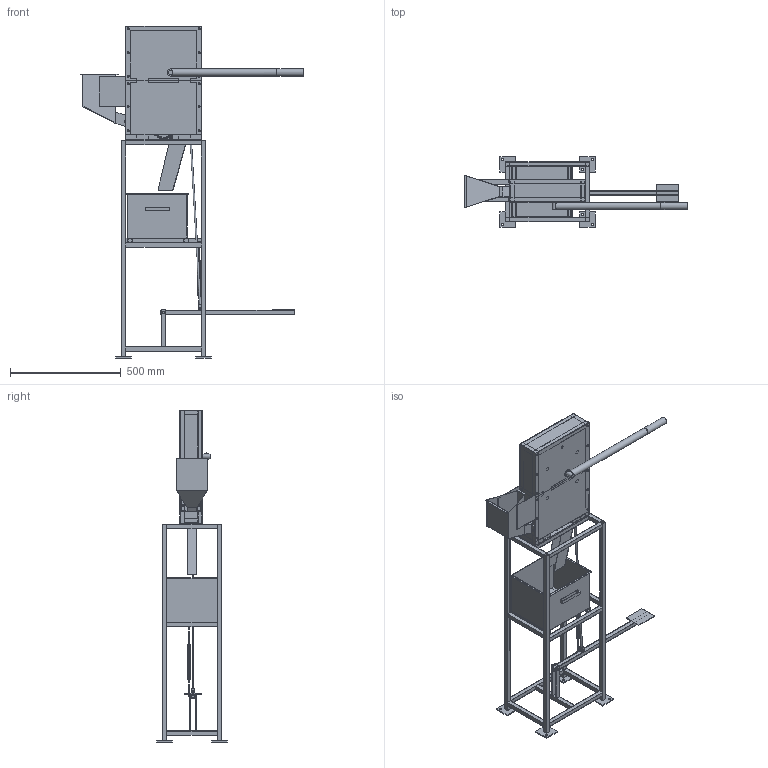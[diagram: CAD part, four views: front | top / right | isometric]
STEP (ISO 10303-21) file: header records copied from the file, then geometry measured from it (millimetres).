
FILE_DESCRIPTION(('FreeCAD Model'),'2;1');
FILE_NAME('Open CASCADE Shape Model','2026-11-21T15:35:46',('Author'),( ''),'Open CASCADE STEP processor 7.9','FreeCAD','Unknown');
FILE_SCHEMA(('AUTOMOTIVE_DESIGN { 1 0 10303 214 1 1 1 1 }'));
Length unit declared in the file: millimetre
Products named in the file (55): prensa_baru_manual_v1; 01_Portico_Soldado_Guia_Metalon_40x40_e_Suporte_Cantoneira; Chapa de Mesa Estrutural 1/4 pol (340x100 mm - Porticos Soldados s/ 
Cantoneiras); Portico Traseiro Soldado (Barra Chata 2x1/4 pol - 4 Furos M8 Guia U); Portico Frontal Soldado (Barra Chata 2x1/4 pol - Y[-40.82,-34.47]); 4x Espacadores Tubulares c/ Parafusos M10 Cl. 8.8; 2x Pinos Batentes Soldados D10 mm c/ Luva de Borracha (PMS 80 e PMI 
20); Suporte em Cantoneira Comercial 1.1/2x3/16 (V 90 graus, s/ Usinagem) + 
Pes Dobrados; Guia Linear em Chapa Dobrada em U (3.0 mm) Parafusavel c/ 4 Furos M8; 4x Parafusos Sextavados M8x20 + Porcas da Guia em U; 4x Tiras Planas Retas Substituiveis de UHMW (5.0 / 10.95 mm); 4x Buchas Padronizadas de Catalogo dos Mancais Fixos O4 (12x14) e O2 
(20x23); Pino Liso Comercial D12 mm c/ Canaletas O-Ring do Pivo O4; 2x Aneis de Retencao O-Ring NBR 70 (10x1.8 mm) do Pivo O4; 02_Conjunto_Soldado_Eixo_O2_Braco_L2_e_Tubo_Unico (Arco < Alcance 
Braco); Eixo D20 Liso Soldado ao Braco L2 + Tubo 1.1/4x2.0 (R_ponta=600 mm); Bucha Padrao de Catalogo 12x14 mm da Junta A; Manopla Ergonomica de Borracha (D32 x 120 mm, Centro R=540 mm); Pino Liso Comercial D12 mm c/ Canaletas O-Ring e Arruelas da Junta A; 2x Aneis de Retencao O-Ring NBR 70 (10x1.8 mm) da Junta A; 03_Elo3_Biela_Acopladora_L3 (100.00 mm); Biela L3 = 100.00 mm (Barra Chata 1x1/4 pol); 2x Buchas Padrao de Catalogo 12x14 mm da Biela L3; 04_Elo4_Balancim_Principal_L4 (111.96 mm); Balancim L4 = 111.96 mm (Barra Chata 1.1/2x1/2 pol); 2x Buchas Padrao de Catalogo 12x14 mm do Balancim L4; 05_Elo5_Garfo_Duplo_L5 (111.96 mm - Pino Contrapinado B); Garfo Duplo L5 = 111.96 mm (2x Barra Chata 1.1/4x1/4 pol); 4x Buchas Padrao de Catalogo 12x14 mm do Garfo L5; Pino Liso Comercial D12 mm c/ Canaletas O-Ring e Arruelas DIN 125 da 
Junta B; 2x Aneis de Retencao O-Ring NBR 70 (10x1.8 mm) da Junta B; 06_Pistao_Soldado_1pol_Navalha_SAE5160_e_Pino_ORing_O5; Embolo Barra Quadrada 1x1 pol + Chapa Encosto e Orelha O5 Soldadas 
(Zero Fresa); Navalha Reta Cunha 30 graus (SAE 5160 50x26x6.35 mm, s/ Entalhes 
Fresados); 2x Parafusos Sextavados Comuns M6x20 c/ Porcas da Navalha; Bucha Padrao de Catalogo 12x14 mm do Olhal O5; Pino Liso Comercial D12 mm c/ Canaletas O-Ring e Arruelas DIN 125 de 
O5; 2x Aneis de Retencao O-Ring NBR 70 (10x1.8 mm) de O5; 07_Cavalete_1500mm_Moega_Alimentacao_Reservatorio_e_Pedal_Estendido; Cavalete de Piso 1,50 m + Gabinete NR-12 (Metalon 20x20x1.50 mm - 
Z[4.76,1497.5]) ...
Assembly tree (54 placements, depth 3):
  prensa_baru_manual_v1
    01_Portico_Soldado_Guia_Metalon_40x40_e_Suporte_Cantoneira
      Chapa de Mesa Estrutural 1/4 pol (340x100 mm - Porticos Soldados s/ 
Cantoneiras)
      Portico Traseiro Soldado (Barra Chata 2x1/4 pol - 4 Furos M8 Guia U)
      Portico Frontal Soldado (Barra Chata 2x1/4 pol - Y[-40.82,-34.47])
      4x Espacadores Tubulares c/ Parafusos M10 Cl. 8.8
      2x Pinos Batentes Soldados D10 mm c/ Luva de Borracha (PMS 80 e PMI 
20)
      Suporte em Cantoneira Comercial 1.1/2x3/16 (V 90 graus, s/ Usinagem) + 
Pes Dobrados
      Guia Linear em Chapa Dobrada em U (3.0 mm) Parafusavel c/ 4 Furos M8
      4x Parafusos Sextavados M8x20 + Porcas da Guia em U
      4x Tiras Planas Retas Substituiveis de UHMW (5.0 / 10.95 mm)
      4x Buchas Padronizadas de Catalogo dos Mancais Fixos O4 (12x14) e O2 
(20x23)
      Pino Liso Comercial D12 mm c/ Canaletas O-Ring do Pivo O4
      2x Aneis de Retencao O-Ring NBR 70 (10x1.8 mm) do Pivo O4
    02_Conjunto_Soldado_Eixo_O2_Braco_L2_e_Tubo_Unico (Arco < Alcance 
Braco)
      Eixo D20 Liso Soldado ao Braco L2 + Tubo 1.1/4x2.0 (R_ponta=600 mm)
      Bucha Padrao de Catalogo 12x14 mm da Junta A
      Manopla Ergonomica de Borracha (D32 x 120 mm, Centro R=540 mm)
      Pino Liso Comercial D12 mm c/ Canaletas O-Ring e Arruelas da Junta A
      2x Aneis de Retencao O-Ring NBR 70 (10x1.8 mm) da Junta A
    03_Elo3_Biela_Acopladora_L3 (100.00 mm)
      Biela L3 = 100.00 mm (Barra Chata 1x1/4 pol)
      2x Buchas Padrao de Catalogo 12x14 mm da Biela L3
    04_Elo4_Balancim_Principal_L4 (111.96 mm)
      Balancim L4 = 111.96 mm (Barra Chata 1.1/2x1/2 pol)
      2x Buchas Padrao de Catalogo 12x14 mm do Balancim L4
    05_Elo5_Garfo_Duplo_L5 (111.96 mm - Pino Contrapinado B)
      Garfo Duplo L5 = 111.96 mm (2x Barra Chata 1.1/4x1/4 pol)
      4x Buchas Padrao de Catalogo 12x14 mm do Garfo L5
      Pino Liso Comercial D12 mm c/ Canaletas O-Ring e Arruelas DIN 125 da 
Junta B
      2x Aneis de Retencao O-Ring NBR 70 (10x1.8 mm) da Junta B
    06_Pistao_Soldado_1pol_Navalha_SAE5160_e_Pino_ORing_O5
      Embolo Barra Quadrada 1x1 pol + Chapa Encosto e Orelha O5 Soldadas 
(Zero Fresa)
      Navalha Reta Cunha 30 graus (SAE 5160 50x26x6.35 mm, s/ Entalhes 
Fresados)
      2x Parafusos Sextavados Comuns M6x20 c/ Porcas da Navalha
      Bucha Padrao de Catalogo 12x14 mm do Olhal O5
      Pino Liso Comercial D12 mm c/ Canaletas O-Ring e Arruelas DIN 125 de 
O5
      2x Aneis de Retencao O-Ring NBR 70 (10x1.8 mm) de O5
    07_Cavalete_1500mm_Moega_Alimentacao_Reservatorio_e_Pedal_Estendido
      Cavalete de Piso 1,50 m + Gabinete NR-12 (Metalon 20x20x1.50 mm - 
Z[4.76,1497.5])
      4x Sapatas de Piso 70x70x4.76 mm c/ 8 Furos Ø10.5 mm p/ Chumbadores 
(Z[0,4.76])
      Fechamento Superior NR-12 (Chapa Galvanizada #18 - 1.20 mm)
      Visor Frontal Transparente NR-12 (Policarbonato 2.0 mm)
      Calha Alimentacao Segura Y=0 (Vao Livre 42x48 mm)
      Reservatorio/Moega Dedicada da Calha de Alimentacao (Chapa Dobrada 
#18, 4x M6 no Gabinete)
      Parafusos M6/M8 do Visor, Carenagem, Calha e Moega de Alimentacao
      Calha Inclinada de Descarga Sob a Mesa (Chapa Dobrada #18)
      Grande Reservatorio Removivel em Chapa Dobrada #18 (268x230x200 mm = 
12,3 L)
      Mancais e Eixo D8 mm da Alavanca Ejetora (O_ext = [34,0,996])
      Alavanca Basculante Ejetora no Rasgo da Cantoneira (0°->22°)
      Tirante 4-Barras D8 mm c/ Furos Redondos Simples (Sem Rasgos 
Oblongos!)
      Pedal de Extracao de Piso Alinhado em +X (Mesma Direcao da Alavanca!)
      Mola Comercial de Retorno do Pedal de Extracao
    08_Corpo_Prova_Baru_Simulado_30x50x40 (Corte Seletivo <= 5.0 mm)
      Baru Simulado 30(Y)x50(X)x40(Z) mm na Cantoneira V 90 graus (Corte PMI 
= 4.75 mm)
Bounding box: 1006.6 x 320 x 1498.72 mm (x, y, z)
Volume: 4749467.9 mm3; surface area: 4749975.7 mm2
Topology: 142 solids, 167 shells, 1468 faces, 3105 edges, 1990 vertices
Faces by surface type: plane 1111, cylinder 323, torus 26, bspline 8
Full cylindrical faces by diameter (mm): 2.6 x2, 5.9 x28, 6.1 x44, 6.3 x8, 7.8 x4, 7.9 x10, 8 x1, 8.1 x1, 8.2 x9, 8.4 x9, 9 x14, 9.6 x12, 9.8 x3, 9.9 x4, 10 x6, 10.1 x2, 10.2 x10, 10.36 x8, 10.4 x4, 10.5 x8, 11.96 x12, 12.04 x12, 12.1 x14, 12.8 x1, 13 x3, 13.6 x8, 14 x14, 14.04 x12, 16 x8, 19 x14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
Entity records: 42132 total; most frequent: CARTESIAN_POINT 7124, DIRECTION 6814, ORIENTED_EDGE 6208, EDGE_CURVE 3102, LINE 2348, VECTOR 2348, AXIS2_PLACEMENT_3D 2233, VERTEX_POINT 1989
